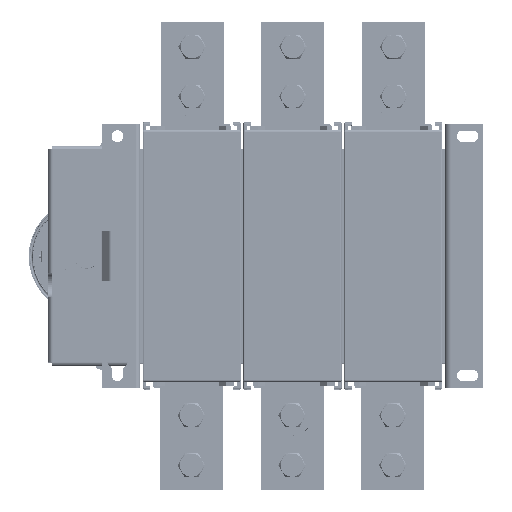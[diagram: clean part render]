
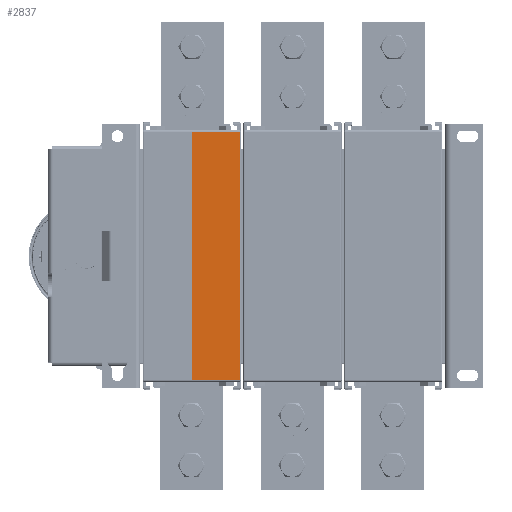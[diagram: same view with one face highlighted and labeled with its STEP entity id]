
A CAD part, top view. The second image highlights one B-rep face of the part: STEP entity #2837.
In plain terms, the highlighted planar face has unit normal (0, 0, 1).
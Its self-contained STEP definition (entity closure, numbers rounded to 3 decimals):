
#2837 = ADVANCED_FACE ( 'NONE', ( #93692 ), #262205, .T. ) ;
#6276 = DIRECTION ( 'NONE',  ( 1., 0., 0. ) ) ;
#14408 = DIRECTION ( 'NONE',  ( 0., 1., 0. ) ) ;
#15388 = EDGE_LOOP ( 'NONE', ( #253903, #351145, #186663, #253272 ) ) ;
#87886 = VERTEX_POINT ( 'NONE', #370975 ) ;
#91231 = LINE ( 'NONE', #267412, #266589 ) ;
#93692 = FACE_OUTER_BOUND ( 'NONE', #15388, .T. ) ;
#94265 = DIRECTION ( 'NONE',  ( 0., -1., 0. ) ) ;
#120647 = CARTESIAN_POINT ( 'NONE',  ( 111.358, 186.007, -1.879 ) ) ;
#120656 = VECTOR ( 'NONE', #6276, 1000. ) ;
#138288 = CARTESIAN_POINT ( 'NONE',  ( 150.358, -12.493, -1.879 ) ) ;
#160073 = CARTESIAN_POINT ( 'NONE',  ( 111.358, 186.007, -1.879 ) ) ;
#161711 = DIRECTION ( 'NONE',  ( 0., 1., 0. ) ) ;
#162464 = EDGE_CURVE ( 'NONE', #222296, #87886, #91231, .T. ) ;
#186663 = ORIENTED_EDGE ( 'NONE', *, *, #162464, .T. ) ;
#200953 = DIRECTION ( 'NONE',  ( 0., 0., 1. ) ) ;
#208265 = LINE ( 'NONE', #254368, #281203 ) ;
#222296 = VERTEX_POINT ( 'NONE', #310034 ) ;
#229310 = VECTOR ( 'NONE', #94265, 1000. ) ;
#241872 = AXIS2_PLACEMENT_3D ( 'NONE', #138288, #200953, #14408 ) ;
#253272 = ORIENTED_EDGE ( 'NONE', *, *, #371502, .F. ) ;
#253903 = ORIENTED_EDGE ( 'NONE', *, *, #321475, .F. ) ;
#254368 = CARTESIAN_POINT ( 'NONE',  ( 111.358, -10.993, -1.879 ) ) ;
#255918 = EDGE_CURVE ( 'NONE', #222296, #398767, #208265, .T. ) ;
#260319 = VERTEX_POINT ( 'NONE', #353837 ) ;
#262205 = PLANE ( 'NONE',  #241872 ) ;
#266589 = VECTOR ( 'NONE', #392594, 1000. ) ;
#267412 = CARTESIAN_POINT ( 'NONE',  ( 111.358, -10.993, -1.879 ) ) ;
#280714 = CARTESIAN_POINT ( 'NONE',  ( 149.358, 186.007, -1.879 ) ) ;
#281203 = VECTOR ( 'NONE', #161711, 1000. ) ;
#310034 = CARTESIAN_POINT ( 'NONE',  ( 111.358, -10.993, -1.879 ) ) ;
#321475 = EDGE_CURVE ( 'NONE', #398767, #260319, #369158, .T. ) ;
#351145 = ORIENTED_EDGE ( 'NONE', *, *, #255918, .F. ) ;
#353837 = CARTESIAN_POINT ( 'NONE',  ( 149.358, 186.007, -1.879 ) ) ;
#369158 = LINE ( 'NONE', #160073, #120656 ) ;
#370975 = CARTESIAN_POINT ( 'NONE',  ( 149.358, -10.993, -1.879 ) ) ;
#371502 = EDGE_CURVE ( 'NONE', #260319, #87886, #385093, .T. ) ;
#385093 = LINE ( 'NONE', #280714, #229310 ) ;
#392594 = DIRECTION ( 'NONE',  ( 1., 0., 0. ) ) ;
#398767 = VERTEX_POINT ( 'NONE', #120647 ) ;
